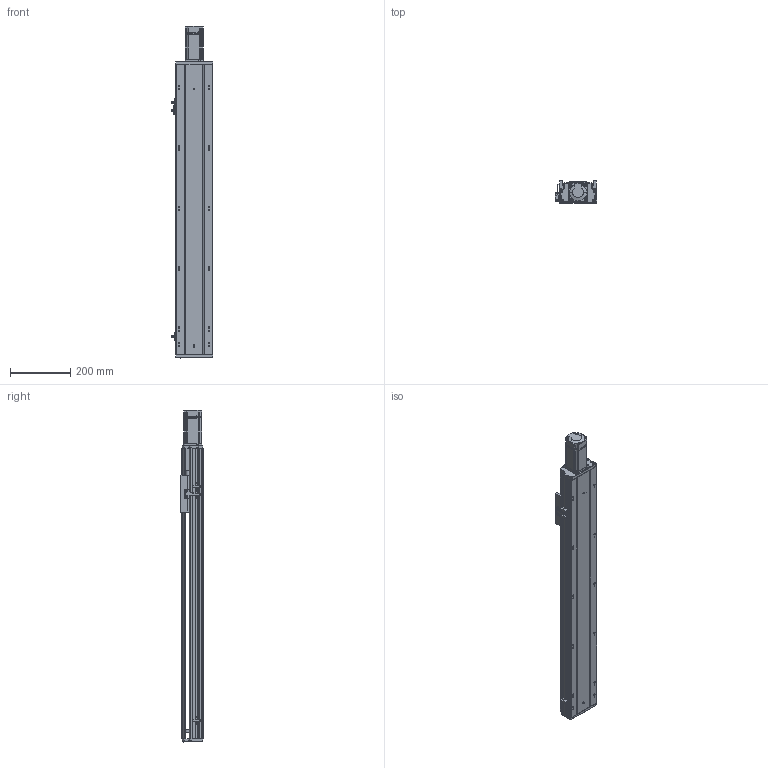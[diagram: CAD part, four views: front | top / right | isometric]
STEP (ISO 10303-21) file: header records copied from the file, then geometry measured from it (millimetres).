
FILE_DESCRIPTION (( 'STEP AP203' ), '1' );
FILE_NAME ('RY120Q-L1610-500-MK.SLDASM_0700.step', '2021-05-19T01:45:07', ( '盈信电脑' ), ( '东莞市道滘镇水果街19号' ), 'SwSTEP 2.0', 'SolidWorks 2016', '' );
FILE_SCHEMA (( 'CONFIG_CONTROL_DESIGN' ));
Length unit declared in the file: millimetre
Products named in the file (14): RY120铝滑块16丝杆（FK12）; 侂狟400W侜督萇儂; RY120萇儂釱FK12; RY120-500-MK倰第奻裔啣_0700; RY120綴裔啣; RY120QGB-1.8; 滅袉蝶18-10; 鞠褒坶踡蹟譫BK12 ; RY120Q-L1610-500-MK.SLDASM_0700; 覜茼ん672; 15; 滅袉蝶18-15; RY120外置感应片(140共用）; RY120-500-MK倰第菁釱_0700
Assembly tree (16 placements, depth 3):
  RY120Q-L1610-500-MK.SLDASM_0700
    RY120-500-MK倰第菁釱_0700
    RY120-500-MK倰第奻裔啣_0700
    侂狟400W侜督萇儂
      15
    鞠褒坶踡蹟譫BK12 
    RY120綴裔啣
    覜茼ん672  x3
    滅袉蝶18-10
    滅袉蝶18-15  x2
    RY120外置感应片(140共用）
    RY120QGB-1.8
    RY120铝滑块16丝杆（FK12）
    RY120萇儂釱FK12
Bounding box: 135.7 x 74 x 1098.5 mm (x, y, z)
Volume: 2968318.4 mm3; surface area: 1031462 mm2
Topology: 16 solids, 16 shells, 2232 faces, 6131 edges, 3912 vertices
Faces by surface type: plane 1019, cylinder 871, cone 241, bspline 101
Entity records: 73493 total; most frequent: CARTESIAN_POINT 20603, ORIENTED_EDGE 10990, DIRECTION 10347, EDGE_CURVE 5495, VERTEX_POINT 3580, AXIS2_PLACEMENT_3D 3568, LINE 3211, VECTOR 3211
